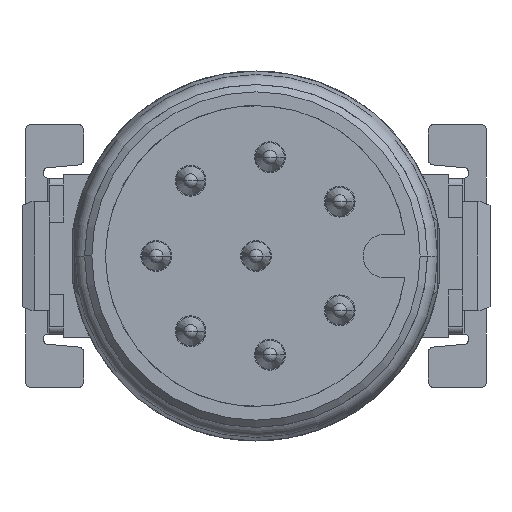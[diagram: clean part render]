
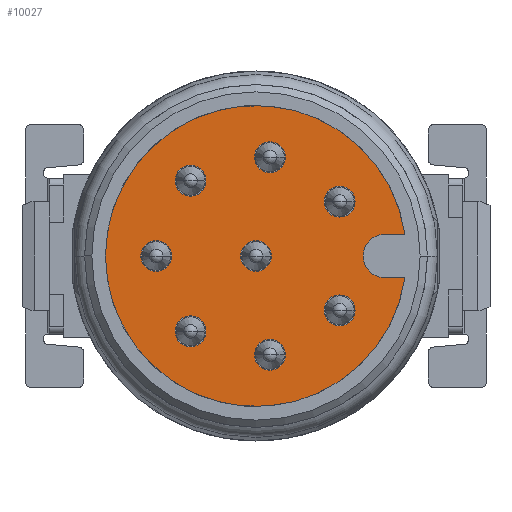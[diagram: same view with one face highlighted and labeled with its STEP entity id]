
A CAD part, left-side view. The second image highlights one B-rep face of the part: STEP entity #10027.
In plain terms, the highlighted planar face has unit normal (-1, 0, 0).
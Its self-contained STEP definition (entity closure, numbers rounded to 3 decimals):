
#2589=CARTESIAN_POINT('',(8.4,-3.55,0.));
#2590=DIRECTION('',(-1.,0.,0.));
#2591=DIRECTION('',(0.,0.,1.));
#2592=AXIS2_PLACEMENT_3D('',#2589,#2590,#2591);
#2594=DIRECTION('',(0.,-1.,0.));
#2595=VECTOR('',#2594,0.556);
#2596=CARTESIAN_POINT('',(8.4,-3.55,-0.6));
#2597=LINE('',#2596,#2595);
#2598=CARTESIAN_POINT('',(8.4,0.,0.));
#2599=DIRECTION('',(1.,0.,0.));
#2600=DIRECTION('',(0.,-0.989,-0.145));
#2601=AXIS2_PLACEMENT_3D('',#2598,#2599,#2600);
#2603=DIRECTION('',(0.,1.,0.));
#2604=VECTOR('',#2603,0.556);
#2605=CARTESIAN_POINT('',(8.4,-4.106,0.6));
#2606=LINE('',#2605,#2604);
#2607=CARTESIAN_POINT('',(8.4,0.,0.));
#2608=DIRECTION('',(-1.,0.,0.));
#2609=DIRECTION('',(0.,-1.,0.));
#2610=AXIS2_PLACEMENT_3D('',#2607,#2608,#2609);
#2612=CARTESIAN_POINT('',(8.4,0.,0.));
#2613=DIRECTION('',(-1.,0.,0.));
#2614=DIRECTION('',(0.,1.,0.));
#2615=AXIS2_PLACEMENT_3D('',#2612,#2613,#2614);
#2617=CARTESIAN_POINT('',(8.4,-2.306,1.498));
#2618=DIRECTION('',(-1.,0.,0.));
#2619=DIRECTION('',(0.,-1.,0.));
#2620=AXIS2_PLACEMENT_3D('',#2617,#2618,#2619);
#2622=CARTESIAN_POINT('',(8.4,-2.306,1.498));
#2623=DIRECTION('',(-1.,0.,0.));
#2624=DIRECTION('',(0.,1.,0.));
#2625=AXIS2_PLACEMENT_3D('',#2622,#2623,#2624);
#2627=CARTESIAN_POINT('',(8.4,-0.383,2.723));
#2628=DIRECTION('',(-1.,0.,0.));
#2629=DIRECTION('',(0.,-1.,0.));
#2630=AXIS2_PLACEMENT_3D('',#2627,#2628,#2629);
#2632=CARTESIAN_POINT('',(8.4,-0.383,2.723));
#2633=DIRECTION('',(-1.,0.,0.));
#2634=DIRECTION('',(0.,1.,0.));
#2635=AXIS2_PLACEMENT_3D('',#2632,#2633,#2634);
#2637=CARTESIAN_POINT('',(8.4,-2.306,-1.498));
#2638=DIRECTION('',(-1.,0.,0.));
#2639=DIRECTION('',(0.,-1.,0.));
#2640=AXIS2_PLACEMENT_3D('',#2637,#2638,#2639);
#2642=CARTESIAN_POINT('',(8.4,-2.306,-1.498));
#2643=DIRECTION('',(-1.,0.,0.));
#2644=DIRECTION('',(0.,1.,0.));
#2645=AXIS2_PLACEMENT_3D('',#2642,#2643,#2644);
#2647=CARTESIAN_POINT('',(8.4,-0.383,-2.723));
#2648=DIRECTION('',(-1.,0.,0.));
#2649=DIRECTION('',(0.,-1.,0.));
#2650=AXIS2_PLACEMENT_3D('',#2647,#2648,#2649);
#2652=CARTESIAN_POINT('',(8.4,-0.383,-2.723));
#2653=DIRECTION('',(-1.,0.,0.));
#2654=DIRECTION('',(0.,1.,0.));
#2655=AXIS2_PLACEMENT_3D('',#2652,#2653,#2654);
#2657=CARTESIAN_POINT('',(8.4,1.804,-2.075));
#2658=DIRECTION('',(-1.,0.,0.));
#2659=DIRECTION('',(0.,-1.,0.));
#2660=AXIS2_PLACEMENT_3D('',#2657,#2658,#2659);
#2662=CARTESIAN_POINT('',(8.4,1.804,-2.075));
#2663=DIRECTION('',(-1.,0.,0.));
#2664=DIRECTION('',(0.,1.,0.));
#2665=AXIS2_PLACEMENT_3D('',#2662,#2663,#2664);
#2667=CARTESIAN_POINT('',(8.4,1.804,2.075));
#2668=DIRECTION('',(-1.,0.,0.));
#2669=DIRECTION('',(0.,-1.,0.));
#2670=AXIS2_PLACEMENT_3D('',#2667,#2668,#2669);
#2672=CARTESIAN_POINT('',(8.4,1.804,2.075));
#2673=DIRECTION('',(-1.,0.,0.));
#2674=DIRECTION('',(0.,1.,0.));
#2675=AXIS2_PLACEMENT_3D('',#2672,#2673,#2674);
#2677=CARTESIAN_POINT('',(8.4,2.75,0.));
#2678=DIRECTION('',(-1.,0.,0.));
#2679=DIRECTION('',(0.,-1.,0.));
#2680=AXIS2_PLACEMENT_3D('',#2677,#2678,#2679);
#2682=CARTESIAN_POINT('',(8.4,2.75,0.));
#2683=DIRECTION('',(-1.,0.,0.));
#2684=DIRECTION('',(0.,1.,0.));
#2685=AXIS2_PLACEMENT_3D('',#2682,#2683,#2684);
#5423=CARTESIAN_POINT('',(8.4,-4.106,-0.6));
#5424=VERTEX_POINT('',#5423);
#5425=CARTESIAN_POINT('',(8.4,-4.106,0.6));
#5426=VERTEX_POINT('',#5425);
#5427=CARTESIAN_POINT('',(8.4,-3.55,-0.6));
#5428=VERTEX_POINT('',#5427);
#5429=CARTESIAN_POINT('',(8.4,-3.55,0.6));
#5430=VERTEX_POINT('',#5429);
#5751=CARTESIAN_POINT('',(8.4,-0.425,0.));
#5752=CARTESIAN_POINT('',(8.4,0.425,0.));
#5753=VERTEX_POINT('',#5751);
#5754=VERTEX_POINT('',#5752);
#5755=CARTESIAN_POINT('',(8.4,-2.731,1.498));
#5756=CARTESIAN_POINT('',(8.4,-1.881,1.498));
#5757=VERTEX_POINT('',#5755);
#5758=VERTEX_POINT('',#5756);
#5759=CARTESIAN_POINT('',(8.4,-0.808,2.723));
#5760=CARTESIAN_POINT('',(8.4,0.042,2.723));
#5761=VERTEX_POINT('',#5759);
#5762=VERTEX_POINT('',#5760);
#5763=CARTESIAN_POINT('',(8.4,-2.731,-1.498));
#5764=CARTESIAN_POINT('',(8.4,-1.881,-1.498));
#5765=VERTEX_POINT('',#5763);
#5766=VERTEX_POINT('',#5764);
#5767=CARTESIAN_POINT('',(8.4,-0.808,-2.723));
#5768=CARTESIAN_POINT('',(8.4,0.042,-2.723));
#5769=VERTEX_POINT('',#5767);
#5770=VERTEX_POINT('',#5768);
#5771=CARTESIAN_POINT('',(8.4,1.379,-2.075));
#5772=CARTESIAN_POINT('',(8.4,2.229,-2.075));
#5773=VERTEX_POINT('',#5771);
#5774=VERTEX_POINT('',#5772);
#5775=CARTESIAN_POINT('',(8.4,1.379,2.075));
#5776=CARTESIAN_POINT('',(8.4,2.229,2.075));
#5777=VERTEX_POINT('',#5775);
#5778=VERTEX_POINT('',#5776);
#5779=CARTESIAN_POINT('',(8.4,2.325,0.));
#5780=CARTESIAN_POINT('',(8.4,3.175,0.));
#5781=VERTEX_POINT('',#5779);
#5782=VERTEX_POINT('',#5780);
#9965=CARTESIAN_POINT('',(8.4,0.,0.));
#9966=DIRECTION('',(1.,0.,0.));
#9967=DIRECTION('',(0.,-1.,0.));
#9968=AXIS2_PLACEMENT_3D('',#9965,#9966,#9967);
#9969=PLANE('',#9968);
#9971=ORIENTED_EDGE('',*,*,#9970,.T.);
#9973=ORIENTED_EDGE('',*,*,#9972,.T.);
#9974=ORIENTED_EDGE('',*,*,#9954,.T.);
#9976=ORIENTED_EDGE('',*,*,#9975,.T.);
#9977=EDGE_LOOP('',(#9971,#9973,#9974,#9976));
#9978=FACE_OUTER_BOUND('',#9977,.F.);
#9980=ORIENTED_EDGE('',*,*,#9979,.T.);
#9982=ORIENTED_EDGE('',*,*,#9981,.T.);
#9983=EDGE_LOOP('',(#9980,#9982));
#9984=FACE_BOUND('',#9983,.F.);
#9986=ORIENTED_EDGE('',*,*,#9985,.T.);
#9988=ORIENTED_EDGE('',*,*,#9987,.T.);
#9989=EDGE_LOOP('',(#9986,#9988));
#9990=FACE_BOUND('',#9989,.F.);
#9992=ORIENTED_EDGE('',*,*,#9991,.T.);
#9994=ORIENTED_EDGE('',*,*,#9993,.T.);
#9995=EDGE_LOOP('',(#9992,#9994));
#9996=FACE_BOUND('',#9995,.F.);
#9998=ORIENTED_EDGE('',*,*,#9997,.T.);
#10000=ORIENTED_EDGE('',*,*,#9999,.T.);
#10001=EDGE_LOOP('',(#9998,#10000));
#10002=FACE_BOUND('',#10001,.F.);
#10004=ORIENTED_EDGE('',*,*,#10003,.T.);
#10006=ORIENTED_EDGE('',*,*,#10005,.T.);
#10007=EDGE_LOOP('',(#10004,#10006));
#10008=FACE_BOUND('',#10007,.F.);
#10010=ORIENTED_EDGE('',*,*,#10009,.T.);
#10012=ORIENTED_EDGE('',*,*,#10011,.T.);
#10013=EDGE_LOOP('',(#10010,#10012));
#10014=FACE_BOUND('',#10013,.F.);
#10016=ORIENTED_EDGE('',*,*,#10015,.T.);
#10018=ORIENTED_EDGE('',*,*,#10017,.T.);
#10019=EDGE_LOOP('',(#10016,#10018));
#10020=FACE_BOUND('',#10019,.F.);
#10022=ORIENTED_EDGE('',*,*,#10021,.T.);
#10024=ORIENTED_EDGE('',*,*,#10023,.T.);
#10025=EDGE_LOOP('',(#10022,#10024));
#10026=FACE_BOUND('',#10025,.F.);
#10027=ADVANCED_FACE('',(#9978,#9984,#9990,#9996,#10002,#10008,#10014,#10020,
#10026),#9969,.F.);
#2593=CIRCLE('',#2592,0.6);
#2602=CIRCLE('',#2601,4.15);
#2611=CIRCLE('',#2610,0.425);
#2616=CIRCLE('',#2615,0.425);
#2621=CIRCLE('',#2620,0.425);
#2626=CIRCLE('',#2625,0.425);
#2631=CIRCLE('',#2630,0.425);
#2636=CIRCLE('',#2635,0.425);
#2641=CIRCLE('',#2640,0.425);
#2646=CIRCLE('',#2645,0.425);
#2651=CIRCLE('',#2650,0.425);
#2656=CIRCLE('',#2655,0.425);
#2661=CIRCLE('',#2660,0.425);
#2666=CIRCLE('',#2665,0.425);
#2671=CIRCLE('',#2670,0.425);
#2676=CIRCLE('',#2675,0.425);
#2681=CIRCLE('',#2680,0.425);
#2686=CIRCLE('',#2685,0.425);
#9954=EDGE_CURVE('',#5424,#5426,#2602,.T.);
#9970=EDGE_CURVE('',#5430,#5428,#2593,.T.);
#9972=EDGE_CURVE('',#5428,#5424,#2597,.T.);
#9975=EDGE_CURVE('',#5426,#5430,#2606,.T.);
#9979=EDGE_CURVE('',#5753,#5754,#2611,.T.);
#9981=EDGE_CURVE('',#5754,#5753,#2616,.T.);
#9985=EDGE_CURVE('',#5757,#5758,#2621,.T.);
#9987=EDGE_CURVE('',#5758,#5757,#2626,.T.);
#9991=EDGE_CURVE('',#5761,#5762,#2631,.T.);
#9993=EDGE_CURVE('',#5762,#5761,#2636,.T.);
#9997=EDGE_CURVE('',#5765,#5766,#2641,.T.);
#9999=EDGE_CURVE('',#5766,#5765,#2646,.T.);
#10003=EDGE_CURVE('',#5769,#5770,#2651,.T.);
#10005=EDGE_CURVE('',#5770,#5769,#2656,.T.);
#10009=EDGE_CURVE('',#5773,#5774,#2661,.T.);
#10011=EDGE_CURVE('',#5774,#5773,#2666,.T.);
#10015=EDGE_CURVE('',#5777,#5778,#2671,.T.);
#10017=EDGE_CURVE('',#5778,#5777,#2676,.T.);
#10021=EDGE_CURVE('',#5781,#5782,#2681,.T.);
#10023=EDGE_CURVE('',#5782,#5781,#2686,.T.);
